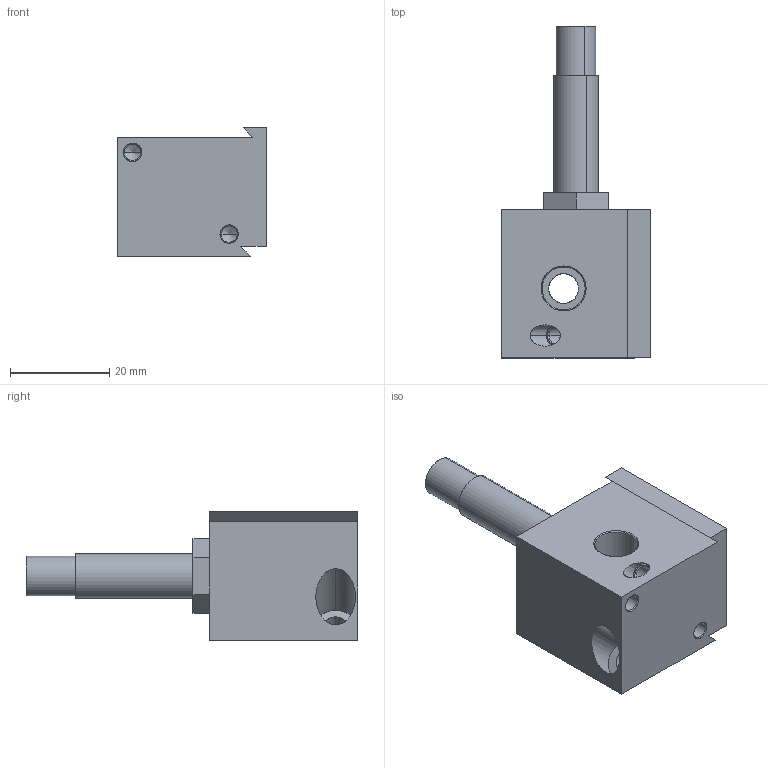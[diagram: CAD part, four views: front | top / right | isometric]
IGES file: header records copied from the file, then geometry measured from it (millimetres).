
Start section: SolidWorks IGES file using analytic representation for surfaces
Global section: file name: c:\CATALO3D\IGS\BE1.IGS; native system: SolidWorks 2006 by SolidWorks Corporation; preprocessor: SolidWorks 2006 by SolidWorks Corporation; author: tania; date: 070727.152700; units: millimetre
Bounding box: 30 x 67 x 26 mm (x, y, z)
Surface area: 7567.1 mm2 (no closed solid volume)
Topology: 0 solids, 0 shells, 78 faces, 1384 edges, 1546 vertices
Faces by surface type: revolution 52, bspline 26
